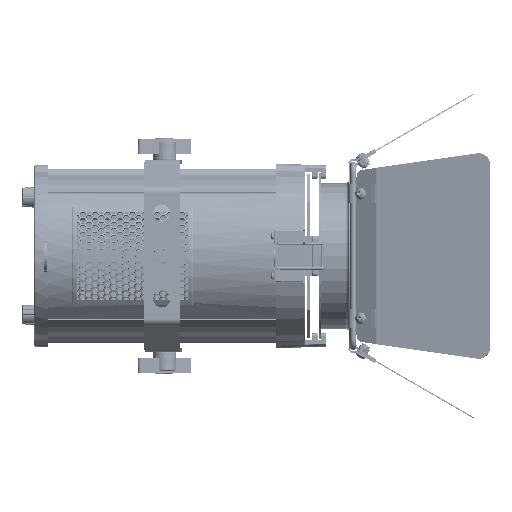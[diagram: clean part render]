
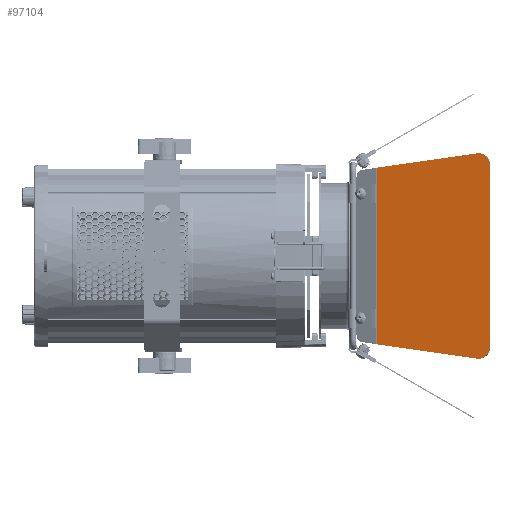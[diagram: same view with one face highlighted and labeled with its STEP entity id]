
A CAD part, left-side view. The second image highlights one B-rep face of the part: STEP entity #97104.
In plain terms, the highlighted planar face has unit normal (-0.978, 0.208, 0) as drawn and (0, 0, -1) by its records, which use the part's own axes.
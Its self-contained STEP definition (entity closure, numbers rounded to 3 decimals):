
#96637=CARTESIAN_POINT('',(-32.5,-63.797,0.));
#96638=DIRECTION('',(0.,0.,-1.));
#96639=DIRECTION('',(0.139,-0.99,0.));
#96640=AXIS2_PLACEMENT_3D('',#96637,#96638,#96639);
#96645=DIRECTION('',(-0.99,-0.139,0.));
#96646=VECTOR('',#96645,72.385);
#96647=CARTESIAN_POINT('',(40.294,-61.645,0.));
#96648=LINE('',#96647,#96646);
#96652=DIRECTION('',(0.,-1.,0.));
#96653=VECTOR('',#96652,123.29);
#96654=CARTESIAN_POINT('',(40.294,61.645,0.));
#96655=LINE('',#96654,#96653);
#96659=DIRECTION('',(-0.99,0.139,0.));
#96660=VECTOR('',#96659,72.385);
#96661=CARTESIAN_POINT('',(40.294,61.645,0.));
#96662=LINE('',#96661,#96660);
#96666=CARTESIAN_POINT('',(-32.5,63.797,0.));
#96667=DIRECTION('',(0.,0.,-1.));
#96668=DIRECTION('',(-1.,0.,0.));
#96669=AXIS2_PLACEMENT_3D('',#96666,#96667,#96668);
#96681=DIRECTION('',(0.,1.,0.));
#96682=VECTOR('',#96681,127.594);
#96683=CARTESIAN_POINT('',(-40.5,-63.797,0.));
#96684=LINE('',#96683,#96682);
#96723=CARTESIAN_POINT('',(40.294,61.645,0.));
#96733=CARTESIAN_POINT('',(40.294,-61.645,0.));
#97029=VERTEX_POINT('',#96723);
#97031=VERTEX_POINT('',#96733);
#97037=CARTESIAN_POINT('',(-31.387,-71.719,0.));
#97038=CARTESIAN_POINT('',(-40.5,-63.797,0.));
#97039=VERTEX_POINT('',#97037);
#97040=VERTEX_POINT('',#97038);
#97045=CARTESIAN_POINT('',(-40.5,63.797,0.));
#97046=CARTESIAN_POINT('',(-31.387,71.719,0.));
#97047=VERTEX_POINT('',#97045);
#97048=VERTEX_POINT('',#97046);
#97085=CARTESIAN_POINT('',(40.5,-73.,0.));
#97086=DIRECTION('',(0.,0.,-1.));
#97087=DIRECTION('',(-1.,0.,0.));
#97088=AXIS2_PLACEMENT_3D('',#97085,#97086,#97087);
#97089=PLANE('',#97088);
#97091=ORIENTED_EDGE('',*,*,#97090,.F.);
#97093=ORIENTED_EDGE('',*,*,#97092,.F.);
#97095=ORIENTED_EDGE('',*,*,#97094,.F.);
#97097=ORIENTED_EDGE('',*,*,#97096,.T.);
#97099=ORIENTED_EDGE('',*,*,#97098,.F.);
#97101=ORIENTED_EDGE('',*,*,#97100,.F.);
#97102=EDGE_LOOP('',(#97091,#97093,#97095,#97097,#97099,#97101));
#97103=FACE_OUTER_BOUND('',#97102,.F.);
#96641=CIRCLE('',#96640,8.);
#96670=CIRCLE('',#96669,8.);
#97090=EDGE_CURVE('',#97039,#97040,#96641,.T.);
#97092=EDGE_CURVE('',#97031,#97039,#96648,.T.);
#97094=EDGE_CURVE('',#97029,#97031,#96655,.T.);
#97096=EDGE_CURVE('',#97029,#97048,#96662,.T.);
#97098=EDGE_CURVE('',#97047,#97048,#96670,.T.);
#97100=EDGE_CURVE('',#97040,#97047,#96684,.T.);
#97104=ADVANCED_FACE('',(#97103),#97089,.T.);
